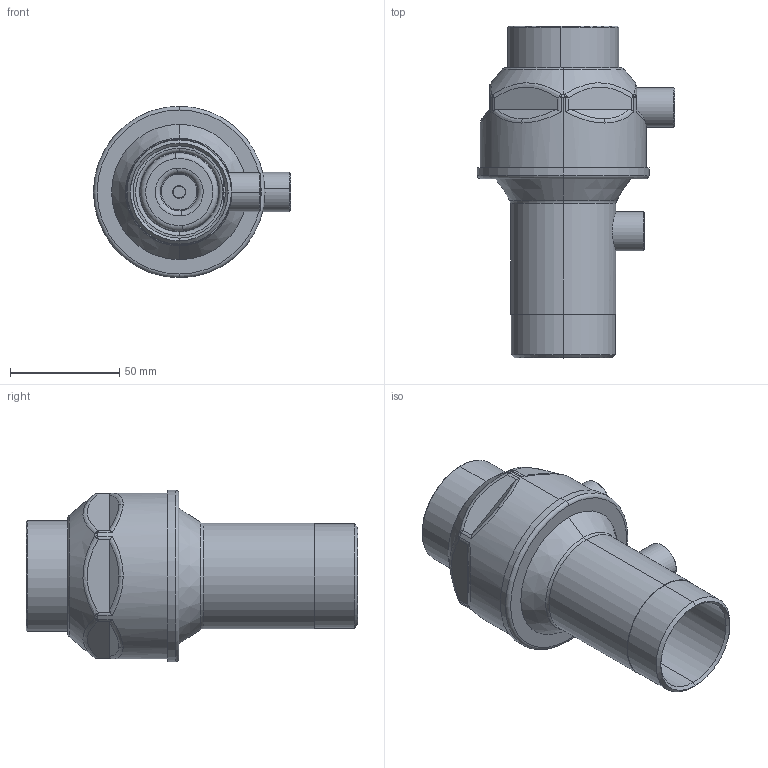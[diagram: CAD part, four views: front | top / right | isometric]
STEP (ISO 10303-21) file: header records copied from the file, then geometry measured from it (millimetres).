
FILE_DESCRIPTION (( 'STEP AP203' ), '1' );
FILE_NAME ('06C2101.STEP', '2021-05-13T13:30:09', ( '' ), ( '' ), 'SwSTEP 2.0', 'SolidWorks 2016', '' );
FILE_SCHEMA (( 'CONFIG_CONTROL_DESIGN' ));
Length unit declared in the file: millimetre
Products named in the file (15): 06H0701 X 1 1_2; 06C2106; 06I0608 X 1 1_2; 06C2104; 06C2102; 05N9702 X 1 1_2; 06C2103; 06I9610 X 1 1_2; 06C2105; 06C2101; 06I9603 X 1 1_2; 06F97003 X 1 1_2; 06C2107; 06B2127; 04D9905 X 1 1_2
Assembly tree (14 placements, depth 4):
  06C2101
    06C2103
      06C2104
      06I0608 X 1 1_2
      06C2105
    06C2102
      06I9610 X 1 1_2
      04D9905 X 1 1_2
      06I9603 X 1 1_2
      05N9702 X 1 1_2
      06H0701 X 1 1_2
      06F97003 X 1 1_2
      06C2107
        06C2106
        06B2127
Bounding box: 90.3 x 152 x 78.6 mm (x, y, z)
Volume: 83057.1 mm3; surface area: 89108.9 mm2
Topology: 12 solids, 12 shells, 403 faces, 977 edges, 586 vertices
Faces by surface type: cylinder 112, plane 90, bspline 86, torus 81, cone 34
Entity records: 20217 total; most frequent: CARTESIAN_POINT 9864, ORIENTED_EDGE 1906, DIRECTION 1792, EDGE_CURVE 953, AXIS2_PLACEMENT_3D 770, VERTEX_POINT 586, EDGE_LOOP 439, CIRCLE 433
